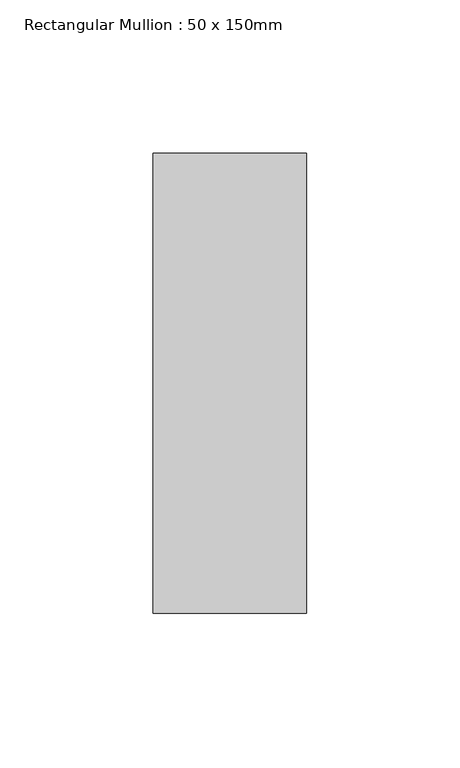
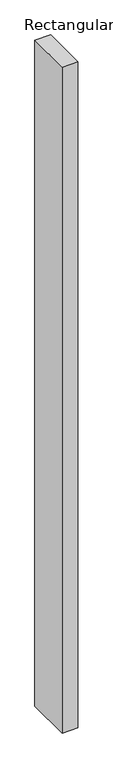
"""IFC4 building model written with IfcOpenShell, lengths in millimetres: member geometry, Rectangular Mullion : 50 x 150mm."""

import ifcopenshell
import ifcopenshell.guid

model = None  # the IFC model being written
_history = None  # IfcOwnerHistory: only IFC2X3 demands one
_inside = {}  # id of a spatial element -> (the spatial element, [elements in it])
_under = {}  # id of a project, library or spatial element -> (it, [spatial elements below it])
_declared = {}  # id of a project -> (the project, [libraries it declares])
_typed = {}  # id of a type object -> (the type object, [elements of that type])
_made_of = {}  # id of a material, layer set ... -> (it, [elements and type objects made of it])


def new_model(schema):
    """Start an empty IFC model of exactly this schema.

    Asked for "IFC4X3", IfcOpenShell would pick the latest addendum, in which some entities
    have other attributes; the version numbers below select the first issue.
    IFC2X3 requires an IfcOwnerHistory on every rooted entity: one is made here for all.
    """
    global model, _history
    if schema == "IFC4X3":
        model = ifcopenshell.file(schema_version=(4, 3, 0, 0))
    else:
        model = ifcopenshell.file(schema=schema)
    _inside.clear()
    _under.clear()
    _declared.clear()
    _typed.clear()
    _made_of.clear()
    _history = None
    if model.schema == "IFC2X3":
        org = make("IfcOrganization", Name="unknown")
        user = make(
            "IfcPersonAndOrganization",
            ThePerson=make("IfcPerson", FamilyName="unknown"),
            TheOrganization=org,
        )
        app = make(
            "IfcApplication",
            ApplicationDeveloper=org,
            Version="unknown",
            ApplicationFullName="unknown",
            ApplicationIdentifier="unknown",
        )
        _history = make(
            "IfcOwnerHistory",
            OwningUser=user,
            OwningApplication=app,
            ChangeAction="ADDED",
            CreationDate=0,
        )
    return model


def make(cls, **values):
    """One entity of the class cls with the attributes given. An attribute that is None is left unset."""
    return model.create_entity(
        cls, **{name: value for name, value in values.items() if value is not None}
    )


def rooted(cls, **values):
    """An entity with a GlobalId (a new one), such as an element, a storey or a relation."""
    return make(cls, GlobalId=ifcopenshell.guid.new(), OwnerHistory=_history, **values)


def si_unit(unit_type, name, prefix=None):
    """IfcSIUnit, for example si_unit("LENGTHUNIT", "METRE", prefix="MILLI")."""
    return make("IfcSIUnit", UnitType=unit_type, Prefix=prefix, Name=name)


def assignment(units):
    """IfcUnitAssignment: the units of a project."""
    return None if units is None else make("IfcUnitAssignment", Units=units)


def point(xyz):
    """IfcCartesianPoint."""
    return None if xyz is None else make("IfcCartesianPoint", Coordinates=xyz)


def direction(xyz):
    """IfcDirection."""
    return None if xyz is None else make("IfcDirection", DirectionRatios=xyz)


def frame(location, z_axis=None, x_axis=None):
    """IfcAxis2Placement3D, a coordinate frame: its origin and axes. An axis left out is left unset."""
    return make(
        "IfcAxis2Placement3D",
        Location=point(location),
        Axis=direction(z_axis),
        RefDirection=direction(x_axis),
    )


def origin():
    """The frame at (0, 0, 0) with its axes left unset."""
    return frame((0.0, 0.0, 0.0))


def place(relative_to, where):
    """IfcLocalPlacement: puts the frame where relative to a parent placement (None: the world)."""
    return make(
        "IfcLocalPlacement", PlacementRelTo=relative_to, RelativePlacement=where
    )


def context(
    kind, dimensions, precision=None, world=None, true_north=None, identifier=None
):
    """IfcGeometricRepresentationContext, for example the 3D "Model" context."""
    return make(
        "IfcGeometricRepresentationContext",
        ContextIdentifier=identifier,
        ContextType=kind,
        CoordinateSpaceDimension=dimensions,
        Precision=precision,
        WorldCoordinateSystem=world,
        TrueNorth=true_north,
    )


def project(units=None, contexts=None):
    """IfcProject with its units and contexts."""
    return rooted(
        "IfcProject",
        Name="project",
        RepresentationContexts=contexts,
        UnitsInContext=assignment(units),
    )


def spatial(cls, under=None, at=None, **own):
    """A site, building, storey or space (cls), placed at a placement, below another one or the project."""
    s = rooted(cls, ObjectPlacement=at, **own)
    if under is not None:
        _under.setdefault(under.id(), (under, []))[1].append(s)
    return s


def polyline(points):
    """IfcPolyline through the points."""
    return make("IfcPolyline", Points=[point(p) for p in points])


def outline(outer, holes=None, kind="AREA"):
    """IfcArbitraryClosedProfileDef: a profile drawn as a closed curve; with holes, ...WithVoids."""
    if holes is None:
        return make("IfcArbitraryClosedProfileDef", ProfileType=kind, OuterCurve=outer)
    return make(
        "IfcArbitraryProfileDefWithVoids",
        ProfileType=kind,
        OuterCurve=outer,
        InnerCurves=holes,
    )


def extrude(swept, where, along, depth):
    """IfcExtrudedAreaSolid: the profile swept, set in the frame where, extruded along a direction by depth."""
    return make(
        "IfcExtrudedAreaSolid",
        SweptArea=swept,
        Position=where,
        ExtrudedDirection=direction(along),
        Depth=depth,
    )


def shape(context_of_items, identifier, shape_type, items):
    """IfcShapeRepresentation: the items that make up one representation, for example the "Body"."""
    return make(
        "IfcShapeRepresentation",
        ContextOfItems=context_of_items,
        RepresentationIdentifier=identifier,
        RepresentationType=shape_type,
        Items=items,
    )


def source(mapping_origin, context_of_items, identifier, shape_type, items):
    """IfcRepresentationMap: a shape defined once, which mapped items show again and again."""
    return make(
        "IfcRepresentationMap",
        MappingOrigin=mapping_origin,
        MappedRepresentation=shape(context_of_items, identifier, shape_type, items),
    )


def transform(
    local_origin,
    x_axis=None,
    y_axis=None,
    z_axis=None,
    scale=None,
    scale2=None,
    scale3=None,
    uniform=True,
):
    """IfcCartesianTransformationOperator3D, or its non-uniform kind. x_axis, y_axis, z_axis: its Axis1, 2, 3."""
    if uniform:
        return make(
            "IfcCartesianTransformationOperator3D",
            Axis1=direction(x_axis),
            Axis2=direction(y_axis),
            LocalOrigin=point(local_origin),
            Scale=scale,
            Axis3=direction(z_axis),
        )
    return make(
        "IfcCartesianTransformationOperator3DnonUniform",
        Axis1=direction(x_axis),
        Axis2=direction(y_axis),
        LocalOrigin=point(local_origin),
        Scale=scale,
        Axis3=direction(z_axis),
        Scale2=scale2,
        Scale3=scale3,
    )


def mapped(mapping_source, mapping_target):
    """IfcMappedItem: shows the shape of a source again, moved by a transform."""
    return make(
        "IfcMappedItem", MappingSource=mapping_source, MappingTarget=mapping_target
    )


def made_of(thing, what):
    """Note that an element or type object is made of a material, layer set ...; save() writes the relation."""
    if what is not None:
        _made_of.setdefault(what.id(), (what, []))[1].append(thing)
    return thing


def element(
    cls,
    number,
    at=None,
    inside=None,
    cuts=None,
    type_object=None,
    material=None,
    context=None,
    identifier="Body",
    shape_type=None,
    held_by="IfcProductDefinitionShape",
    body=None,
    shapes=None,
    **own,
):
    """One element of the class cls, such as IfcWall. Its Tag is "e" and its number.

    at: its placement. inside: the storey or other place that contains it. cuts: it is an
    opening in that element (IfcRelVoidsElement). A single representation is given by context,
    identifier, shape_type and body (its items); several are given by shapes. held_by: the class
    of the entity that holds the representations. save() writes the other relations.
    """
    e = rooted(cls, Tag="e%d" % number, ObjectPlacement=at, **own)
    if body is not None:
        shapes = [shape(context, identifier, shape_type, body)]
    if shapes is not None:
        e.Representation = make(held_by, Representations=shapes)
    if inside is not None:
        _inside.setdefault(inside.id(), (inside, []))[1].append(e)
    if cuts is not None:
        rooted(
            "IfcRelVoidsElement", RelatingBuildingElement=cuts, RelatedOpeningElement=e
        )
    if type_object is not None:
        _typed.setdefault(type_object.id(), (type_object, []))[1].append(e)
    return made_of(e, material)


def aggregate(whole, parts):
    """IfcRelAggregates: a whole, such as a stair, and the parts it consists of."""
    return rooted("IfcRelAggregates", RelatingObject=whole, RelatedObjects=parts)


def save(model, path):
    """Write the relations noted so far, then the file.

    IfcRelAggregates (storeys below a building ...), IfcRelContainedInSpatialStructure (elements
    in a storey), IfcRelDefinesByType, IfcRelAssociatesMaterial and IfcRelDeclares: one each for
    every whole, place, type object, material and project.
    """
    for whole, parts in _under.values():
        aggregate(whole, parts)
    for where, things in _inside.values():
        rooted(
            "IfcRelContainedInSpatialStructure",
            RelatedElements=things,
            RelatingStructure=where,
        )
    for kind, things in _typed.values():
        rooted("IfcRelDefinesByType", RelatedObjects=things, RelatingType=kind)
    for what, things in _made_of.values():
        rooted("IfcRelAssociatesMaterial", RelatedObjects=things, RelatingMaterial=what)
    for by, libraries in _declared.values():
        rooted("IfcRelDeclares", RelatingContext=by, RelatedDefinitions=libraries)
    model.write(path)


def rectangular_mullion_50_x_150mm_79b53f25(model_context):
    return source(origin(), model_context, "Body", "SweptSolid", [
        extrude(outline(polyline([(25.0, 75.0), (25.0, -75.0), (-25.0, -75.0), (-25.0, 75.0), (25.0, 75.0)])), frame((0.0, 0.0, -2250.0), z_axis=(0.0, 0.0, 1.0), x_axis=(1.0, 0.0, 0.0)), (0.0, 0.0, 1.0), 2250.0),
    ])


if __name__ == "__main__":
    model = new_model("IFC4")
    model_context = context("Model", 3, world=origin())
    ifc_project = project(units=[si_unit("LENGTHUNIT", "METRE", prefix="MILLI")], contexts=[model_context])
    site = spatial("IfcSite", under=ifc_project)
    building = spatial("IfcBuilding", under=site)
    placement = place(None, origin())
    rectangular_mullion_50_x_150mm_shape = rectangular_mullion_50_x_150mm_79b53f25(model_context)
    element("IfcMember", 1, ObjectType="Rectangular Mullion : 50 x 150mm", at=placement, inside=building, context=model_context, shape_type="MappedRepresentation", body=[
        mapped(rectangular_mullion_50_x_150mm_shape, transform((0.0, 0.0, 0.0), x_axis=(1.0, 0.0, 0.0), y_axis=(0.0, 1.0, 0.0), z_axis=(0.0, 0.0, 1.0))),
    ])
    save(model, "model.ifc")
